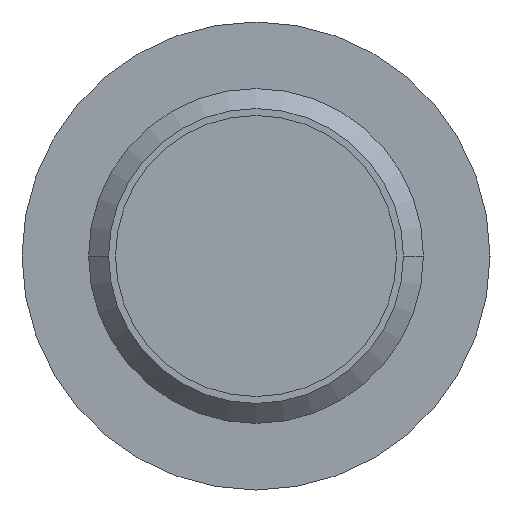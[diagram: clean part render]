
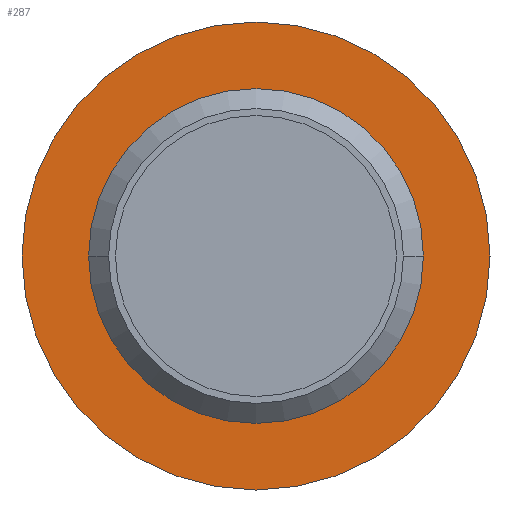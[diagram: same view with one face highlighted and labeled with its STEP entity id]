
A CAD part, left-side view. The second image highlights one B-rep face of the part: STEP entity #287.
In plain terms, the highlighted planar face has unit normal (-1, 0, 0).
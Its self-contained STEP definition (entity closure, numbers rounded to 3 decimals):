
#40=CARTESIAN_POINT('',(-17.5,0.,0.));
#41=DIRECTION('',(1.,0.,0.));
#42=DIRECTION('',(0.,1.,0.));
#43=AXIS2_PLACEMENT_3D('',#40,#41,#42);
#45=CARTESIAN_POINT('',(-17.5,0.,0.));
#46=DIRECTION('',(-1.,0.,0.));
#47=DIRECTION('',(0.,1.,0.));
#48=AXIS2_PLACEMENT_3D('',#45,#46,#47);
#58=CARTESIAN_POINT('',(-17.5,0.,0.));
#59=DIRECTION('',(-1.,0.,0.));
#60=DIRECTION('',(0.,1.,0.));
#61=AXIS2_PLACEMENT_3D('',#58,#59,#60);
#63=CARTESIAN_POINT('',(-17.5,0.,0.));
#64=DIRECTION('',(1.,0.,0.));
#65=DIRECTION('',(0.,1.,0.));
#66=AXIS2_PLACEMENT_3D('',#63,#64,#65);
#124=CARTESIAN_POINT('',(-17.5,4.864,0.));
#126=VERTEX_POINT('',#124);
#130=CARTESIAN_POINT('',(-17.5,-4.864,0.));
#132=VERTEX_POINT('',#130);
#136=CARTESIAN_POINT('',(-17.5,6.8,0.));
#137=CARTESIAN_POINT('',(-17.5,-6.8,0.));
#138=VERTEX_POINT('',#136);
#139=VERTEX_POINT('',#137);
#272=CARTESIAN_POINT('',(-17.5,0.,0.));
#273=DIRECTION('',(1.,0.,0.));
#274=DIRECTION('',(0.,-1.,0.));
#275=AXIS2_PLACEMENT_3D('',#272,#273,#274);
#276=PLANE('117',#275);
#277=ORIENTED_EDGE('118',*,*,#267,.T.);
#278=ORIENTED_EDGE('148',*,*,#251,.F.);
#279=EDGE_LOOP('117',(#277,#278));
#280=FACE_OUTER_BOUND('117',#279,.F.);
#282=ORIENTED_EDGE('150',*,*,#281,.T.);
#284=ORIENTED_EDGE('120',*,*,#283,.F.);
#285=EDGE_LOOP('117',(#282,#284));
#286=FACE_BOUND('117',#285,.F.);
#287=ADVANCED_FACE('117',(#280,#286),#276,.F.);
#44=CIRCLE('118',#43,6.8);
#49=CIRCLE('148',#48,6.8);
#62=CIRCLE('150',#61,4.864);
#67=CIRCLE('120',#66,4.864);
#251=EDGE_CURVE('148',#138,#139,#49,.T.);
#267=EDGE_CURVE('118',#138,#139,#44,.T.);
#281=EDGE_CURVE('150',#126,#132,#62,.T.);
#283=EDGE_CURVE('120',#126,#132,#67,.T.);
